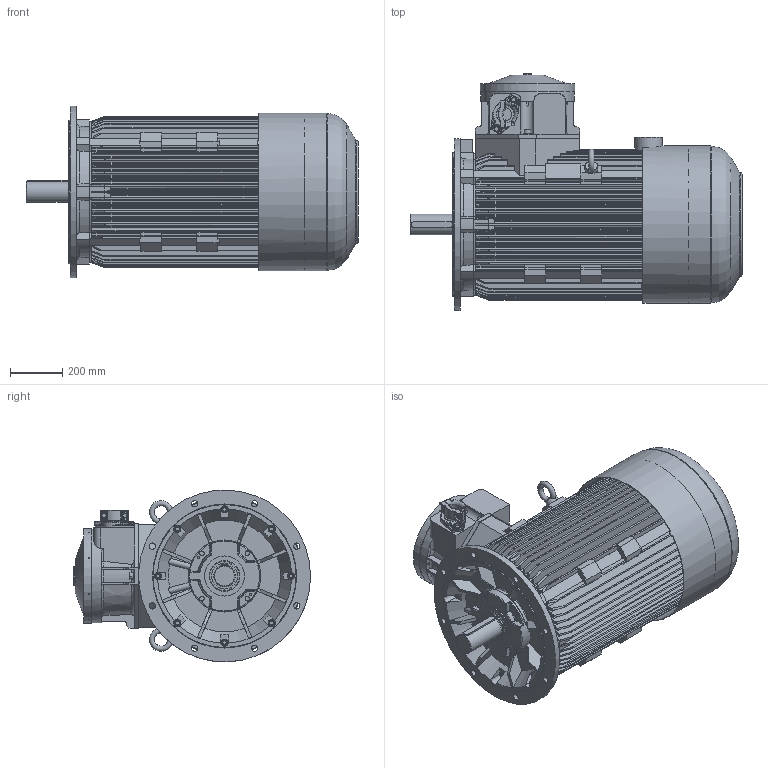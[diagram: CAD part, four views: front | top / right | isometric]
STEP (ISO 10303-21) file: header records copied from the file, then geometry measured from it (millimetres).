
FILE_DESCRIPTION(/* description */ ('Unknown'),/* implementation_level */ '2;1');
FILE_NAME(/* name */ 'cSTKe(b)315S(4,6,8), M(6,8)A-N-IE(2,3)',/* time_stamp */ '2022-04-19T13:51:23+02:00',/* author */ ('Unknown'),/* organization */ ('Unknown'),/* preprocessor_version */ 'ST-DEVELOPER v16.7',/* originating_system */ 'DEX',/* authorisation */ $);
FILE_SCHEMA (('AUTOMOTIVE_DESIGN {1 0 10303 214 3 1 1}'));
Products named in the file (1): cSTKe(b)315S(4,6,8), M(6,8)A-N-IE(2,3)
Bounding box: 1274.52 x 910 x 659.67 mm (x, y, z)
Volume: 275933384 mm3; surface area: 7274307.6 mm2
Topology: 1 solids, 49 shells, 2406 faces, 6242 edges, 4005 vertices
Faces by surface type: plane 1158, cylinder 689, cone 275, torus 154, bspline 93, sphere 37
Full cylindrical faces by diameter (mm): 2.459 x2, 4.5 x1, 6 x1, 6.3 x1, 8.16 x2, 8.376 x4, 9.853 x8, 10 x10, 10.106 x8, 11 x7, 12 x18, 13.5 x8, 13.546 x4, 13.835 x6, 14.63 x8, 16 x17, 17.5 x12, 18 x8, 20.752 x4, 22 x8, 24 x20, 26 x8, 50 x3, 67 x1, 80 x1, 87 x1, 100 x1, 106 x1, 153.6 x1, 275 x1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
Entity records: 92677 total; most frequent: CARTESIAN_POINT 19663, ORIENTED_EDGE 11526, DIRECTION 11503, EDGE_CURVE 5763, AXIS2_PLACEMENT_3D 4382, VERTEX_POINT 3844, FACE_BOUND 2903, EDGE_LOOP 2888
